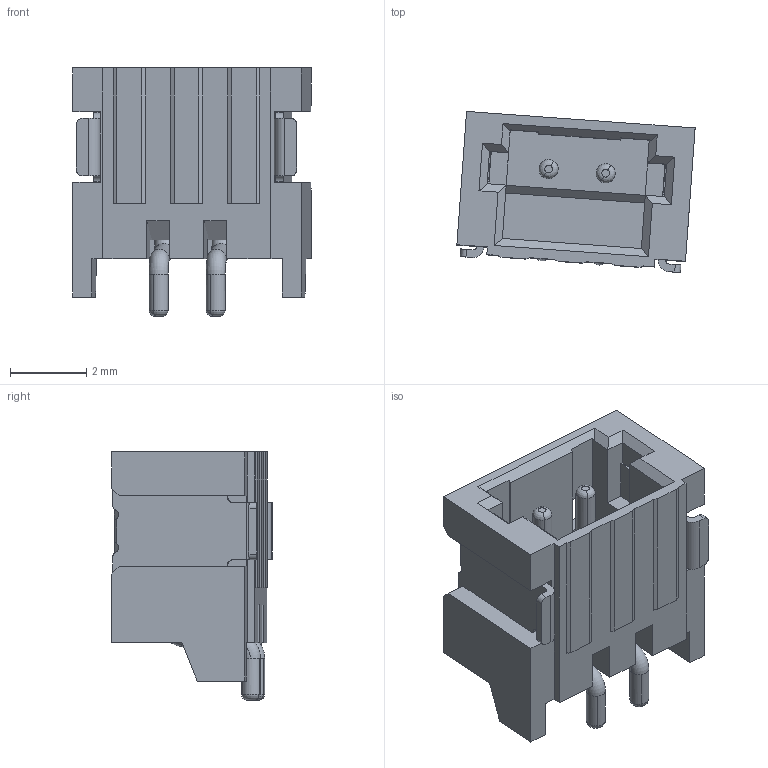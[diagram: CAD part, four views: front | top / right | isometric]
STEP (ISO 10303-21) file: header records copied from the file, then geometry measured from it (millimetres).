
FILE_DESCRIPTION(('CATIA V5 STEP Exchange'),'2;1');
FILE_NAME('Z:\3D文件\小覃\条形连接器-小黄\1.5系列\ZH-01\HC-ZH-NAWT-01(卧贴-HCTL)\HC-ZH-2AWT-01(卧贴-HCTL).stp','2024-12-24T01:23:38+00:00',('none'),('none'),'CATIA Version 5 Release 20 GA (IN-10)','CATIA V5 STEP AP203','none');
FILE_SCHEMA(('CONFIG_CONTROL_DESIGN'));
Length unit declared in the file: millimetre
Products named in the file (1): 产品1
Assembly tree (5 placements, depth 2):
  产品1
    #58  x2
    #563
    #4279  x2
Bounding box: 6.24 x 4.22 x 6.5 mm (x, y, z)
Volume: 64.4 mm3; surface area: 278.9 mm2
Topology: 5 solids, 5 shells, 247 faces, 694 edges, 454 vertices
Faces by surface type: plane 167, cylinder 60, torus 12, revolution 8
Entity records: 5747 total; most frequent: CARTESIAN_POINT 1076, ORIENTED_EDGE 1040, DIRECTION 787, EDGE_CURVE 520, VECTOR 396, LINE 396, VERTEX_POINT 338, AXIS2_PLACEMENT_3D 240
